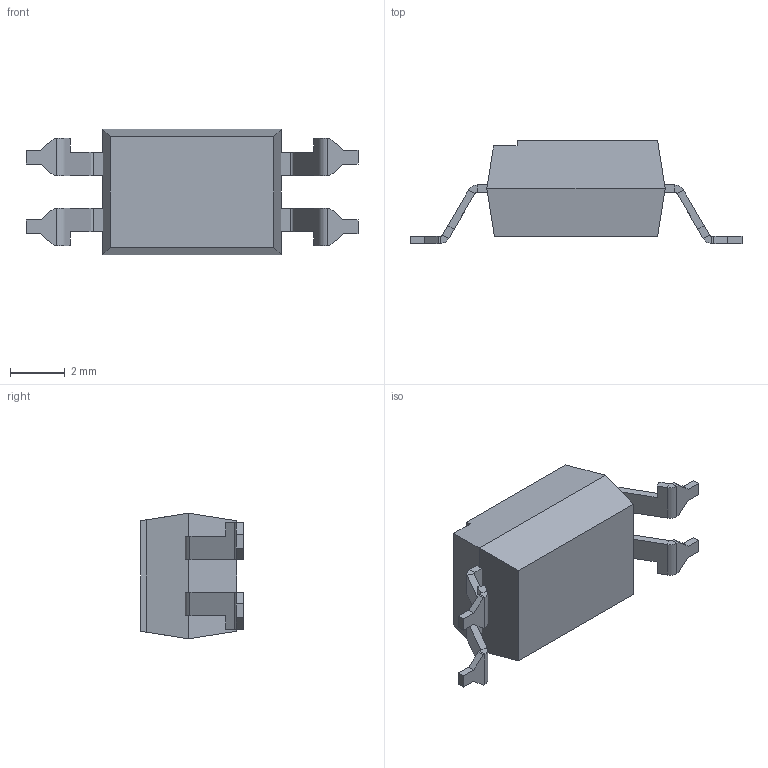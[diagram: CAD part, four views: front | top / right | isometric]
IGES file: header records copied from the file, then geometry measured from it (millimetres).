
Start section: SolidWorks IGES file using analytic representation for surfaces
Global section: file name: C:\Users\David\Dropbox\Jose Espina\Component Packages\DIP4\DIP4-OP8.IGS; native system: SolidWorks 2015; preprocessor: SolidWorks 2015; author: David; date: 151206.120211; units: millimetre
Bounding box: 12.1 x 3.75 x 4.58 mm (x, y, z)
Volume: 109.2 mm3; surface area: 268.4 mm2
Topology: 3 solids, 3 shells, 144 faces, 352 edges, 212 vertices
Faces by surface type: plane 128, revolution 16
